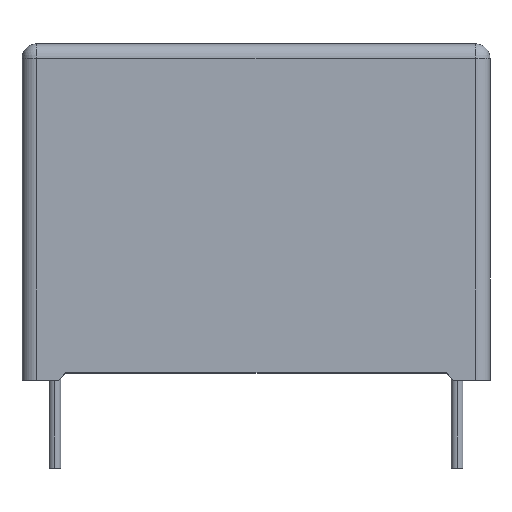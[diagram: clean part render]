
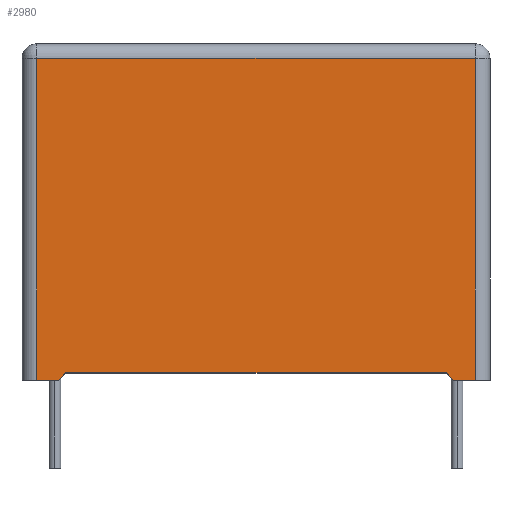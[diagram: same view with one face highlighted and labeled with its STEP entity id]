
A CAD part, top view. The second image highlights one B-rep face of the part: STEP entity #2980.
In plain terms, the highlighted planar face has unit normal (0, 0, 1).
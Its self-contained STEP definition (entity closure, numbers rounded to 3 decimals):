
#2 = EDGE_CURVE ( 'NONE', #1768, #1821, #1692, .T. ) ;
#101 = CARTESIAN_POINT ( 'NONE',  ( -16., 0., 6.5 ) ) ;
#277 = EDGE_CURVE ( 'NONE', #1307, #1768, #453, .T. ) ;
#395 = VECTOR ( 'NONE', #1008, 1000. ) ;
#434 = LINE ( 'NONE', #2331, #395 ) ;
#453 = LINE ( 'NONE', #702, #483 ) ;
#470 = DIRECTION ( 'NONE',  ( -0.707, -0.707, 0. ) ) ;
#483 = VECTOR ( 'NONE', #742, 1000. ) ;
#505 = EDGE_CURVE ( 'NONE', #1348, #1307, #2690, .T. ) ;
#602 = EDGE_LOOP ( 'NONE', ( #3023, #3041, #3066, #3079, #3118, #3150, #3157, #3170 ) ) ;
#702 = CARTESIAN_POINT ( 'NONE',  ( -16., 22., 6.5 ) ) ;
#711 = DIRECTION ( 'NONE',  ( 0., 0., -1. ) ) ;
#729 = EDGE_CURVE ( 'NONE', #1101, #1428, #1854, .T. ) ;
#742 = DIRECTION ( 'NONE',  ( -1., 0., 0. ) ) ;
#752 = CARTESIAN_POINT ( 'NONE',  ( 13., 0.5, 6.5 ) ) ;
#861 = CARTESIAN_POINT ( 'NONE',  ( -16., 0., 6.5 ) ) ;
#882 = DIRECTION ( 'NONE',  ( 1., 0., 0. ) ) ;
#914 = LINE ( 'NONE', #101, #2971 ) ;
#977 = EDGE_CURVE ( 'NONE', #1428, #1473, #434, .T. ) ;
#1008 = DIRECTION ( 'NONE',  ( -1., 0., 0. ) ) ;
#1101 = VERTEX_POINT ( 'NONE', #3451 ) ;
#1307 = VERTEX_POINT ( 'NONE', #1353 ) ;
#1348 = VERTEX_POINT ( 'NONE', #4214 ) ;
#1353 = CARTESIAN_POINT ( 'NONE',  ( 15., 22., 6.5 ) ) ;
#1355 = DIRECTION ( 'NONE',  ( 0., 1., 0. ) ) ;
#1422 = CARTESIAN_POINT ( 'NONE',  ( -16., 23., 6.5 ) ) ;
#1428 = VERTEX_POINT ( 'NONE', #3466 ) ;
#1473 = VERTEX_POINT ( 'NONE', #2761 ) ;
#1674 = VECTOR ( 'NONE', #1737, 1000. ) ;
#1692 = LINE ( 'NONE', #2683, #1674 ) ;
#1737 = DIRECTION ( 'NONE',  ( 0., -1., 0. ) ) ;
#1756 = VECTOR ( 'NONE', #3848, 1000. ) ;
#1768 = VERTEX_POINT ( 'NONE', #3945 ) ;
#1796 = PLANE ( 'NONE',  #4067 ) ;
#1821 = VERTEX_POINT ( 'NONE', #3240 ) ;
#1829 = VERTEX_POINT ( 'NONE', #2807 ) ;
#1854 = LINE ( 'NONE', #752, #1756 ) ;
#2130 = DIRECTION ( 'NONE',  ( -1., 0., 0. ) ) ;
#2197 = DIRECTION ( 'NONE',  ( 1., 0., 0. ) ) ;
#2331 = CARTESIAN_POINT ( 'NONE',  ( -13., 0.5, 6.5 ) ) ;
#2548 = CARTESIAN_POINT ( 'NONE',  ( -13.5, 0., 6.5 ) ) ;
#2581 = VECTOR ( 'NONE', #882, 1000. ) ;
#2683 = CARTESIAN_POINT ( 'NONE',  ( -15., 23., 6.5 ) ) ;
#2690 = LINE ( 'NONE', #2823, #2944 ) ;
#2761 = CARTESIAN_POINT ( 'NONE',  ( -13., 0.5, 6.5 ) ) ;
#2807 = CARTESIAN_POINT ( 'NONE',  ( -13.5, 0., 6.5 ) ) ;
#2823 = CARTESIAN_POINT ( 'NONE',  ( 15., 23., 6.5 ) ) ;
#2944 = VECTOR ( 'NONE', #1355, 1000. ) ;
#2961 = LINE ( 'NONE', #2548, #4046 ) ;
#2971 = VECTOR ( 'NONE', #2197, 1000. ) ;
#2980 = ADVANCED_FACE ( 'NONE', ( #3480 ), #1796, .F. ) ;
#3023 = ORIENTED_EDGE ( 'NONE', *, *, #977, .F. ) ;
#3041 = ORIENTED_EDGE ( 'NONE', *, *, #729, .F. ) ;
#3066 = ORIENTED_EDGE ( 'NONE', *, *, #3194, .T. ) ;
#3079 = ORIENTED_EDGE ( 'NONE', *, *, #505, .T. ) ;
#3118 = ORIENTED_EDGE ( 'NONE', *, *, #277, .T. ) ;
#3150 = ORIENTED_EDGE ( 'NONE', *, *, #2, .T. ) ;
#3157 = ORIENTED_EDGE ( 'NONE', *, *, #4104, .T. ) ;
#3170 = ORIENTED_EDGE ( 'NONE', *, *, #3914, .F. ) ;
#3194 = EDGE_CURVE ( 'NONE', #1101, #1348, #914, .T. ) ;
#3240 = CARTESIAN_POINT ( 'NONE',  ( -15., 0., 6.5 ) ) ;
#3451 = CARTESIAN_POINT ( 'NONE',  ( 13.5, 0., 6.5 ) ) ;
#3466 = CARTESIAN_POINT ( 'NONE',  ( 13., 0.5, 6.5 ) ) ;
#3480 = FACE_OUTER_BOUND ( 'NONE', #602, .T. ) ;
#3848 = DIRECTION ( 'NONE',  ( -0.707, 0.707, 0. ) ) ;
#3914 = EDGE_CURVE ( 'NONE', #1473, #1829, #2961, .T. ) ;
#3945 = CARTESIAN_POINT ( 'NONE',  ( -15., 22., 6.5 ) ) ;
#3963 = LINE ( 'NONE', #861, #2581 ) ;
#4046 = VECTOR ( 'NONE', #470, 1000. ) ;
#4067 = AXIS2_PLACEMENT_3D ( 'NONE', #1422, #711, #2130 ) ;
#4104 = EDGE_CURVE ( 'NONE', #1821, #1829, #3963, .T. ) ;
#4214 = CARTESIAN_POINT ( 'NONE',  ( 15., 0., 6.5 ) ) ;
